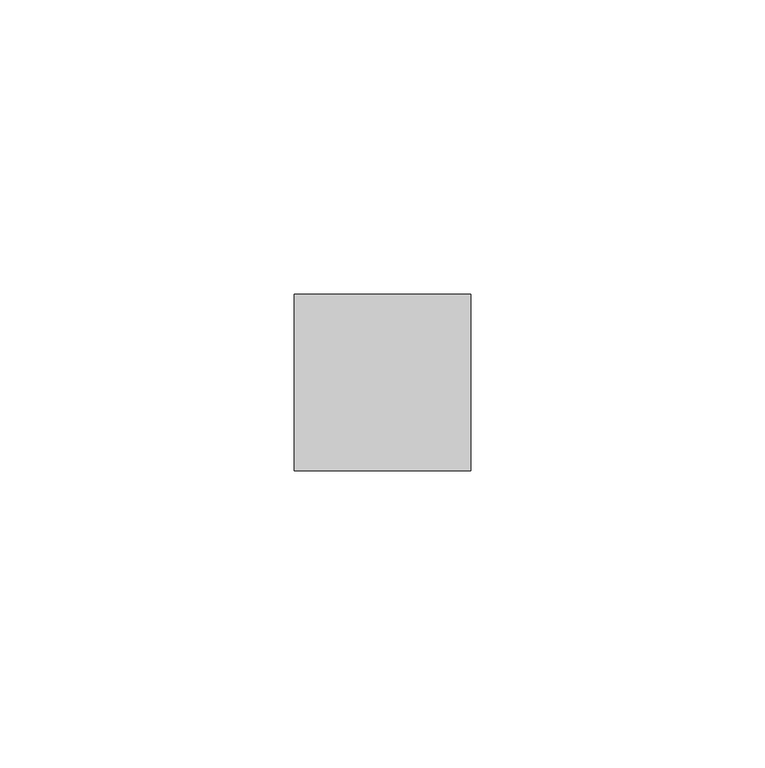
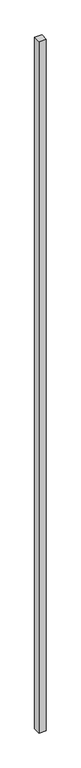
"""IFC4 building model written with IfcOpenShell, lengths in millimetres: member geometry, 矩形竖梃 : 30mm 正方形."""

from ifc_helpers import new_model, si_unit, frame, origin, place, context, project, spatial, polyline, outline, extrude, source, transform, mapped, element, save


def member_69e691f9(model_context):
    return source(origin(), model_context, "Body", "SweptSolid", [
        extrude(outline(polyline([(15.0, 15.0), (15.0, -15.0), (-15.0, -15.0), (-15.0, 15.0), (15.0, 15.0)])), frame((0.0, 0.0, -3000.0), z_axis=(0.0, 0.0, 1.0), x_axis=(1.0, 0.0, 0.0)), (0.0, 0.0, 1.0), 3000.0),
    ])


if __name__ == "__main__":
    model = new_model("IFC4")
    model_context = context("Model", 3, world=origin())
    ifc_project = project(units=[si_unit("LENGTHUNIT", "METRE", prefix="MILLI")], contexts=[model_context])
    site = spatial("IfcSite", under=ifc_project)
    building = spatial("IfcBuilding", under=site)
    placement = place(None, origin())
    member_shape = member_69e691f9(model_context)
    element("IfcMember", 1, ObjectType="矩形竖梃 : 30mm 正方形", at=placement, inside=building, context=model_context, shape_type="MappedRepresentation", body=[
        mapped(member_shape, transform((0.0, 0.0, 0.0), x_axis=(1.0, 0.0, 0.0), y_axis=(0.0, 1.0, 0.0), z_axis=(0.0, 0.0, 1.0))),
    ])
    save(model, "model.ifc")
